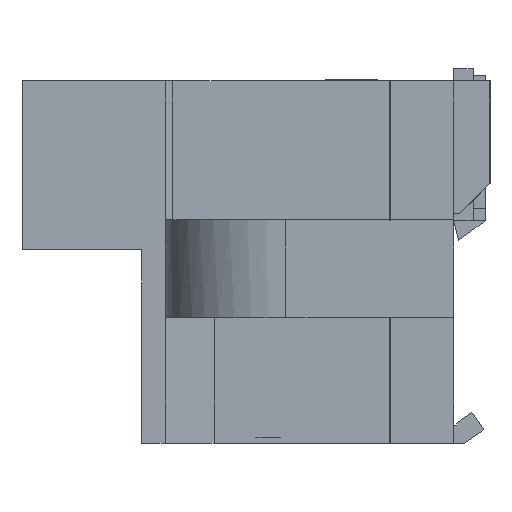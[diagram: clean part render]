
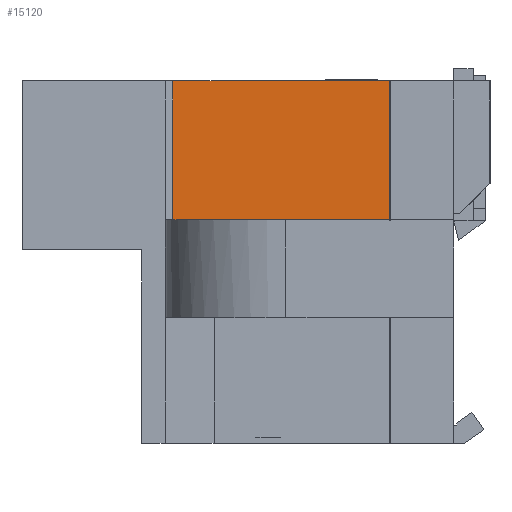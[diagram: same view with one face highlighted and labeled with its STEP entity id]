
A CAD part, left-side view. The second image highlights one B-rep face of the part: STEP entity #15120.
In plain terms, the highlighted planar face has unit normal (-1, 0, 0).
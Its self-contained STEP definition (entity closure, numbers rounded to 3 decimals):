
#879=PLANE('',#16085);
#1505=FACE_OUTER_BOUND('',#2381,.T.);
#2381=EDGE_LOOP('',(#11754,#11755,#11756,#11757,#11758));
#3287=LINE('',#21391,#4951);
#3524=LINE('',#23575,#5188);
#3697=LINE('',#23937,#5361);
#3724=LINE('',#23982,#5388);
#3725=LINE('',#23984,#5389);
#4951=VECTOR('',#17124,1000.);
#5188=VECTOR('',#17487,1000.);
#5361=VECTOR('',#17748,1000.);
#5388=VECTOR('',#17791,1000.);
#5389=VECTOR('',#17794,1000.);
#6950=VERTEX_POINT('',#21377);
#6956=VERTEX_POINT('',#21389);
#7338=VERTEX_POINT('',#23572);
#7339=VERTEX_POINT('',#23574);
#7484=VERTEX_POINT('',#23936);
#8541=EDGE_CURVE('',#6956,#6950,#3287,.T.);
#8928=EDGE_CURVE('',#7338,#7339,#3524,.T.);
#9113=EDGE_CURVE('',#7484,#7339,#3697,.T.);
#9142=EDGE_CURVE('',#6956,#7484,#3724,.T.);
#9143=EDGE_CURVE('',#6950,#7338,#3725,.T.);
#11754=ORIENTED_EDGE('',*,*,#8928,.F.);
#11755=ORIENTED_EDGE('',*,*,#9143,.F.);
#11756=ORIENTED_EDGE('',*,*,#8541,.F.);
#11757=ORIENTED_EDGE('',*,*,#9142,.T.);
#11758=ORIENTED_EDGE('',*,*,#9113,.T.);
#15120=ADVANCED_FACE('',(#1505),#879,.F.);
#16085=AXIS2_PLACEMENT_3D('',#23983,#17792,#17793);
#17124=DIRECTION('',(0.,-1.,0.));
#17487=DIRECTION('',(0.,1.,0.));
#17748=DIRECTION('',(0.,-1.,0.));
#17791=DIRECTION('',(0.,0.,-1.));
#17792=DIRECTION('center_axis',(1.,0.,0.));
#17793=DIRECTION('ref_axis',(0.,1.,0.));
#17794=DIRECTION('',(0.,0.,-1.));
#21377=CARTESIAN_POINT('',(1.3,-60.8,23.));
#21389=CARTESIAN_POINT('',(1.3,-25.,23.));
#21391=CARTESIAN_POINT('',(1.3,-25.,23.));
#23572=CARTESIAN_POINT('',(1.3,-60.8,0.));
#23574=CARTESIAN_POINT('',(1.3,-31.7,0.));
#23575=CARTESIAN_POINT('',(1.3,-25.,0.));
#23936=CARTESIAN_POINT('',(1.3,-25.,0.));
#23937=CARTESIAN_POINT('',(1.3,-25.,0.));
#23982=CARTESIAN_POINT('',(1.3,-25.,23.));
#23983=CARTESIAN_POINT('Origin',(1.3,-25.,23.));
#23984=CARTESIAN_POINT('',(1.3,-60.8,24.));
